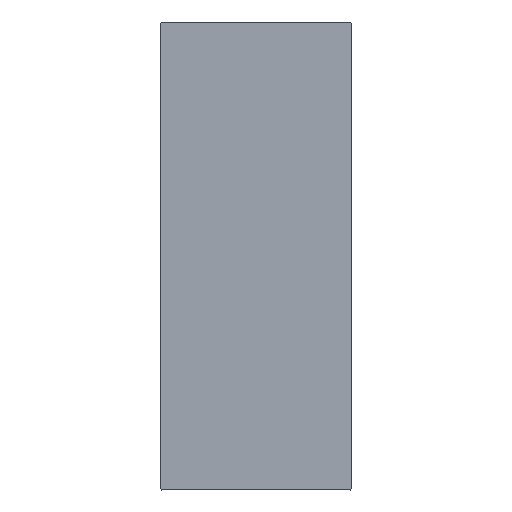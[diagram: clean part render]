
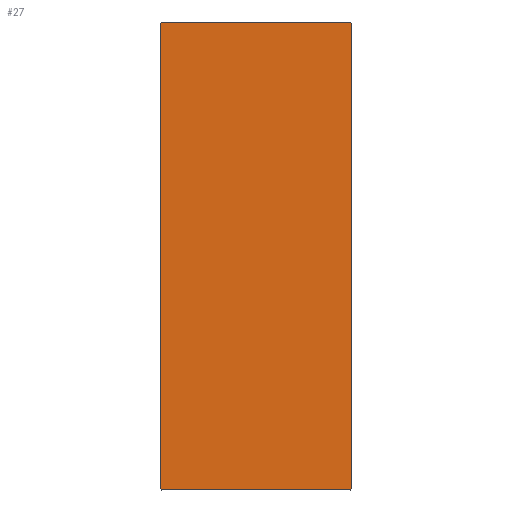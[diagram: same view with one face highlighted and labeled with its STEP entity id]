
A CAD part, top view. The second image highlights one B-rep face of the part: STEP entity #27.
In plain terms, the highlighted planar face has unit normal (0, 0, 1).
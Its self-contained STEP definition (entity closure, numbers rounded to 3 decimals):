
#27=ADVANCED_FACE('',(#60),#488,.T.);
#60=FACE_OUTER_BOUND('',#93,.T.);
#93=EDGE_LOOP('',(#170,#171,#172,#173,#174,#175,#176,#177));
#170=ORIENTED_EDGE('',*,*,#304,.F.);
#171=ORIENTED_EDGE('',*,*,#295,.F.);
#172=ORIENTED_EDGE('',*,*,#291,.F.);
#173=ORIENTED_EDGE('',*,*,#298,.F.);
#174=ORIENTED_EDGE('',*,*,#301,.T.);
#175=ORIENTED_EDGE('',*,*,#277,.T.);
#176=ORIENTED_EDGE('',*,*,#270,.T.);
#177=ORIENTED_EDGE('',*,*,#274,.F.);
#270=EDGE_CURVE('',#433,#432,#351,.T.);
#274=EDGE_CURVE('',#435,#432,#355,.T.);
#277=EDGE_CURVE('',#434,#433,#358,.T.);
#291=EDGE_CURVE('',#449,#448,#372,.T.);
#295=EDGE_CURVE('',#448,#451,#376,.T.);
#298=EDGE_CURVE('',#450,#449,#379,.T.);
#301=EDGE_CURVE('',#450,#434,#382,.T.);
#304=EDGE_CURVE('',#451,#435,#385,.T.);
#351=B_SPLINE_CURVE_WITH_KNOTS('',1,(#726,#727,#728),.UNSPECIFIED.,.F.,
 .F.,(2,1,2),(3998.991,5094.041,6189.092),
 .UNSPECIFIED.);
#355=B_SPLINE_CURVE_WITH_KNOTS('',1,(#735,#736),.UNSPECIFIED.,.F.,.F.,(2,
2),(-7.,0.),.UNSPECIFIED.);
#358=B_SPLINE_CURVE_WITH_KNOTS('',1,(#741,#742),.UNSPECIFIED.,.F.,.F.,(2,
2),(3991.991,3998.991),.UNSPECIFIED.);
#372=B_SPLINE_CURVE_WITH_KNOTS('',1,(#769,#770,#771),.UNSPECIFIED.,.F.,
 .F.,(2,1,2),(3998.991,5094.041,6189.092),
 .UNSPECIFIED.);
#376=B_SPLINE_CURVE_WITH_KNOTS('',1,(#778,#779),.UNSPECIFIED.,.F.,.F.,(2,
2),(0.,7.),.UNSPECIFIED.);
#379=B_SPLINE_CURVE_WITH_KNOTS('',1,(#784,#785),.UNSPECIFIED.,.F.,.F.,(2,
2),(3991.991,3998.991),.UNSPECIFIED.);
#382=B_SPLINE_CURVE_WITH_KNOTS('',1,(#790,#791),.UNSPECIFIED.,.F.,.F.,(2,
2),(0.,890.445),.UNSPECIFIED.);
#385=B_SPLINE_CURVE_WITH_KNOTS('',1,(#796,#797),.UNSPECIFIED.,.F.,.F.,(2,
2),(0.,890.445),.UNSPECIFIED.);
#432=VERTEX_POINT('',#670);
#433=VERTEX_POINT('',#671);
#434=VERTEX_POINT('',#672);
#435=VERTEX_POINT('',#673);
#448=VERTEX_POINT('',#686);
#449=VERTEX_POINT('',#687);
#450=VERTEX_POINT('',#688);
#451=VERTEX_POINT('',#689);
#488=PLANE('',#527);
#527=AXIS2_PLACEMENT_3D('',#615,#549,$);
#549=DIRECTION('',(0.,0.,1.));
#615=CARTESIAN_POINT('',(-9.003,2200.,757.));
#670=CARTESIAN_POINT('',(900.346,2195.05,757.));
#671=CARTESIAN_POINT('',(900.346,4.95,757.));
#672=CARTESIAN_POINT('',(895.396,0.,757.));
#673=CARTESIAN_POINT('',(895.396,2200.,757.));
#686=CARTESIAN_POINT('',(0.001,2195.05,757.));
#687=CARTESIAN_POINT('',(0.001,4.95,757.));
#688=CARTESIAN_POINT('',(4.951,0.,757.));
#689=CARTESIAN_POINT('',(4.951,2200.,757.));
#726=CARTESIAN_POINT('',(900.346,4.95,757.));
#727=CARTESIAN_POINT('',(900.346,1100.,757.));
#728=CARTESIAN_POINT('',(900.346,2195.05,757.));
#735=CARTESIAN_POINT('',(895.396,2200.,757.));
#736=CARTESIAN_POINT('',(900.346,2195.05,757.));
#741=CARTESIAN_POINT('',(895.396,0.,757.));
#742=CARTESIAN_POINT('',(900.346,4.95,757.));
#769=CARTESIAN_POINT('',(0.001,4.95,757.));
#770=CARTESIAN_POINT('',(0.,1100.,757.));
#771=CARTESIAN_POINT('',(0.001,2195.05,757.));
#778=CARTESIAN_POINT('',(0.001,2195.05,757.));
#779=CARTESIAN_POINT('',(4.951,2200.,757.));
#784=CARTESIAN_POINT('',(4.951,0.,757.));
#785=CARTESIAN_POINT('',(0.001,4.95,757.));
#790=CARTESIAN_POINT('',(4.951,0.,757.));
#791=CARTESIAN_POINT('',(895.396,0.,757.));
#796=CARTESIAN_POINT('',(4.951,2200.,757.));
#797=CARTESIAN_POINT('',(895.396,2200.,757.));
